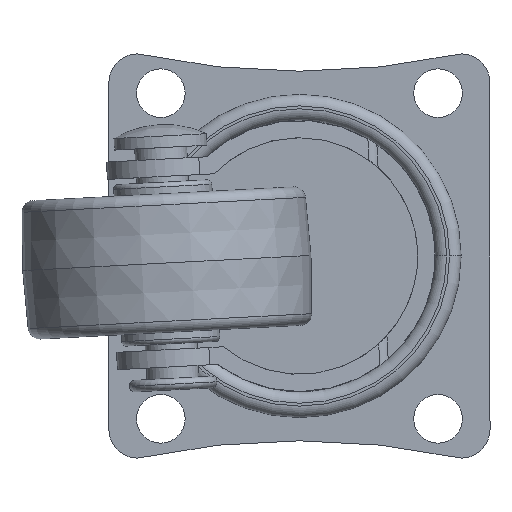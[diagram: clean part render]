
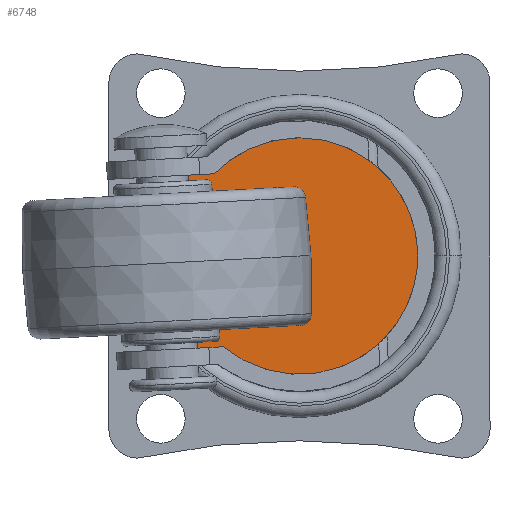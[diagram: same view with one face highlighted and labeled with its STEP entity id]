
A CAD part, front view. The second image highlights one B-rep face of the part: STEP entity #6748.
In plain terms, the highlighted planar face has unit normal (0, -1, 0) as drawn and (0, 1, 0) by its records, which use the part's own axes.
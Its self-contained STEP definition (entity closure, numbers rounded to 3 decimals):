
#435 = FACE_OUTER_BOUND ( 'NONE', #2924, .T. ) ;
#436 = CARTESIAN_POINT ( 'NONE',  ( 7.5, 1.5, 12.88 ) ) ;
#585 = CIRCLE ( 'NONE', #1688, 10.25 ) ;
#1324 = EDGE_CURVE ( 'NONE', #7219, #9747, #13338, .T. ) ;
#1688 = AXIS2_PLACEMENT_3D ( 'NONE', #11565, #5110, #7235 ) ;
#1869 = LINE ( 'NONE', #4140, #10770 ) ;
#1899 = DIRECTION ( 'NONE',  ( 1., 0., 0. ) ) ;
#1961 = EDGE_CURVE ( 'NONE', #10121, #2220, #585, .T. ) ;
#2096 = EDGE_CURVE ( 'NONE', #7219, #6990, #1869, .T. ) ;
#2220 = VERTEX_POINT ( 'NONE', #3777 ) ;
#2468 = VECTOR ( 'NONE', #10045, 1000. ) ;
#2561 = ORIENTED_EDGE ( 'NONE', *, *, #8025, .T. ) ;
#2806 = CARTESIAN_POINT ( 'NONE',  ( 0., 1.5, 12.88 ) ) ;
#2924 = EDGE_LOOP ( 'NONE', ( #9800, #2561, #10939, #3442, #7422 ) ) ;
#3385 = CARTESIAN_POINT ( 'NONE',  ( -7.5, 1.5, 6.987 ) ) ;
#3442 = ORIENTED_EDGE ( 'NONE', *, *, #9130, .T. ) ;
#3494 = PLANE ( 'NONE',  #11800 ) ;
#3664 = DIRECTION ( 'NONE',  ( 0., 0., 1. ) ) ;
#3692 = DIRECTION ( 'NONE',  ( 0., 1., 0. ) ) ;
#3777 = CARTESIAN_POINT ( 'NONE',  ( 0., 1.5, -10.25 ) ) ;
#4140 = CARTESIAN_POINT ( 'NONE',  ( -7.5, 1.5, 0. ) ) ;
#4981 = DIRECTION ( 'NONE',  ( 0., 0., -1. ) ) ;
#5039 = CARTESIAN_POINT ( 'NONE',  ( -7.5, 1.5, 12.88 ) ) ;
#5110 = DIRECTION ( 'NONE',  ( 0., 1., 0. ) ) ;
#5795 = CARTESIAN_POINT ( 'NONE',  ( 7.5, 1.5, 22.5 ) ) ;
#6748 = ADVANCED_FACE ( 'NONE', ( #435 ), #3494, .T. ) ;
#6790 = CARTESIAN_POINT ( 'NONE',  ( 0., 1.5, 0. ) ) ;
#6990 = VERTEX_POINT ( 'NONE', #3385 ) ;
#7219 = VERTEX_POINT ( 'NONE', #5039 ) ;
#7235 = DIRECTION ( 'NONE',  ( 0., 0., 1. ) ) ;
#7422 = ORIENTED_EDGE ( 'NONE', *, *, #2096, .F. ) ;
#7713 = CARTESIAN_POINT ( 'NONE',  ( 7.5, 1.5, 6.987 ) ) ;
#7983 = CIRCLE ( 'NONE', #9790, 10.25 ) ;
#8001 = CARTESIAN_POINT ( 'NONE',  ( 0., 1.5, 0. ) ) ;
#8025 = EDGE_CURVE ( 'NONE', #9747, #10121, #11082, .T. ) ;
#9130 = EDGE_CURVE ( 'NONE', #2220, #6990, #7983, .T. ) ;
#9747 = VERTEX_POINT ( 'NONE', #436 ) ;
#9790 = AXIS2_PLACEMENT_3D ( 'NONE', #8001, #13237, #3664 ) ;
#9800 = ORIENTED_EDGE ( 'NONE', *, *, #1324, .T. ) ;
#10045 = DIRECTION ( 'NONE',  ( 0., 0., -1. ) ) ;
#10121 = VERTEX_POINT ( 'NONE', #7713 ) ;
#10770 = VECTOR ( 'NONE', #4981, 1000. ) ;
#10939 = ORIENTED_EDGE ( 'NONE', *, *, #1961, .T. ) ;
#11082 = LINE ( 'NONE', #5795, #2468 ) ;
#11565 = CARTESIAN_POINT ( 'NONE',  ( 0., 1.5, 0. ) ) ;
#11800 = AXIS2_PLACEMENT_3D ( 'NONE', #6790, #3692, #12092 ) ;
#12092 = DIRECTION ( 'NONE',  ( 0., 0., 1. ) ) ;
#13237 = DIRECTION ( 'NONE',  ( 0., 1., 0. ) ) ;
#13338 = LINE ( 'NONE', #2806, #13349 ) ;
#13349 = VECTOR ( 'NONE', #1899, 1000. ) ;
